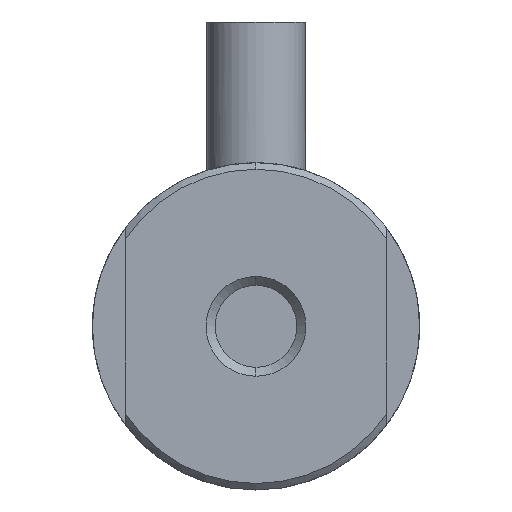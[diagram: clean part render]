
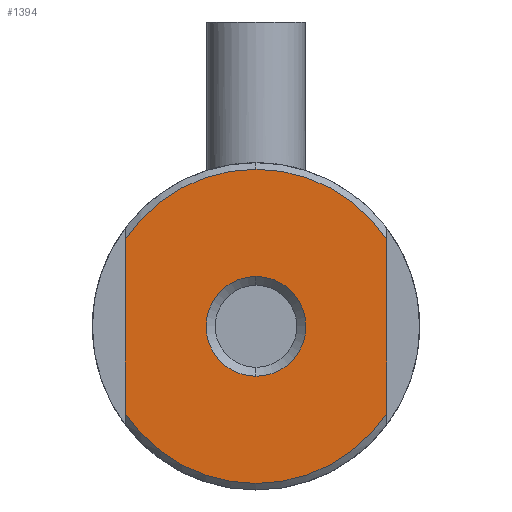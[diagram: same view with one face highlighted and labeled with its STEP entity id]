
A CAD part, front view. The second image highlights one B-rep face of the part: STEP entity #1394.
In plain terms, the highlighted planar face has unit normal (0, -1, 0).
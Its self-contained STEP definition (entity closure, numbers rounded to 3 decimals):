
#1 = EDGE_CURVE ( 'NONE', #1760, #1574, #1885, .T. ) ;
#10 = CARTESIAN_POINT ( 'NONE',  ( 15.221, -12.067, 22.247 ) ) ;
#122 = DIRECTION ( 'NONE',  ( 0., -1., 0. ) ) ;
#123 = CARTESIAN_POINT ( 'NONE',  ( 15.221, -12.067, 27.9 ) ) ;
#133 = DIRECTION ( 'NONE',  ( 0., 0., 1. ) ) ;
#157 = AXIS2_PLACEMENT_3D ( 'NONE', #786, #1821, #1129 ) ;
#215 = ORIENTED_EDGE ( 'NONE', *, *, #950, .F. ) ;
#314 = VERTEX_POINT ( 'NONE', #579 ) ;
#319 = AXIS2_PLACEMENT_3D ( 'NONE', #2030, #122, #133 ) ;
#506 = CARTESIAN_POINT ( 'NONE',  ( 11.221, -12.067, 23.375 ) ) ;
#579 = CARTESIAN_POINT ( 'NONE',  ( 11.221, -12.067, 29.7 ) ) ;
#597 = CIRCLE ( 'NONE', #1053, 1.525 ) ;
#608 = DIRECTION ( 'NONE',  ( 0., 0., 1. ) ) ;
#612 = DIRECTION ( 'NONE',  ( 0., 0., 1. ) ) ;
#617 = CARTESIAN_POINT ( 'NONE',  ( 11.221, -12.067, 24.9 ) ) ;
#639 = EDGE_CURVE ( 'NONE', #1850, #1306, #1549, .T. ) ;
#691 = DIRECTION ( 'NONE',  ( 0., -1., 0. ) ) ;
#709 = AXIS2_PLACEMENT_3D ( 'NONE', #1374, #1535, #836 ) ;
#741 = VECTOR ( 'NONE', #1128, 1000. ) ;
#760 = CARTESIAN_POINT ( 'NONE',  ( 11.221, -12.067, 24.9 ) ) ;
#766 = ORIENTED_EDGE ( 'NONE', *, *, #1, .T. ) ;
#786 = CARTESIAN_POINT ( 'NONE',  ( 11.221, -12.067, 24.9 ) ) ;
#788 = DIRECTION ( 'NONE',  ( 0., 0., -1. ) ) ;
#789 = AXIS2_PLACEMENT_3D ( 'NONE', #760, #2177, #612 ) ;
#836 = DIRECTION ( 'NONE',  ( 0., 0., -1. ) ) ;
#867 = VERTEX_POINT ( 'NONE', #943 ) ;
#876 = DIRECTION ( 'NONE',  ( 0., 0., 1. ) ) ;
#927 = ORIENTED_EDGE ( 'NONE', *, *, #2170, .F. ) ;
#943 = CARTESIAN_POINT ( 'NONE',  ( 15.221, -12.067, 27.553 ) ) ;
#950 = EDGE_CURVE ( 'NONE', #1760, #1429, #1427, .T. ) ;
#973 = EDGE_LOOP ( 'NONE', ( #927, #1843, #2192, #215, #766 ) ) ;
#990 = AXIS2_PLACEMENT_3D ( 'NONE', #2086, #691, #876 ) ;
#1053 = AXIS2_PLACEMENT_3D ( 'NONE', #617, #1828, #788 ) ;
#1103 = EDGE_CURVE ( 'NONE', #1306, #1850, #597, .T. ) ;
#1128 = DIRECTION ( 'NONE',  ( 0., 0., -1. ) ) ;
#1129 = DIRECTION ( 'NONE',  ( 0., 0., 1. ) ) ;
#1251 = EDGE_CURVE ( 'NONE', #314, #1429, #2070, .T. ) ;
#1306 = VERTEX_POINT ( 'NONE', #1417 ) ;
#1317 = FACE_OUTER_BOUND ( 'NONE', #973, .T. ) ;
#1374 = CARTESIAN_POINT ( 'NONE',  ( 11.221, -12.067, 24.9 ) ) ;
#1392 = LINE ( 'NONE', #123, #741 ) ;
#1394 = ADVANCED_FACE ( 'NONE', ( #1809, #1317 ), #2171, .F. ) ;
#1417 = CARTESIAN_POINT ( 'NONE',  ( 11.221, -12.067, 26.425 ) ) ;
#1427 = LINE ( 'NONE', #1614, #1628 ) ;
#1429 = VERTEX_POINT ( 'NONE', #1519 ) ;
#1519 = CARTESIAN_POINT ( 'NONE',  ( 7.221, -12.067, 27.553 ) ) ;
#1535 = DIRECTION ( 'NONE',  ( 0., -1., 0. ) ) ;
#1549 = CIRCLE ( 'NONE', #709, 1.525 ) ;
#1574 = VERTEX_POINT ( 'NONE', #10 ) ;
#1614 = CARTESIAN_POINT ( 'NONE',  ( 7.221, -12.067, 27.9 ) ) ;
#1628 = VECTOR ( 'NONE', #608, 1000. ) ;
#1753 = EDGE_CURVE ( 'NONE', #867, #314, #1871, .T. ) ;
#1760 = VERTEX_POINT ( 'NONE', #2190 ) ;
#1809 = FACE_BOUND ( 'NONE', #1931, .T. ) ;
#1821 = DIRECTION ( 'NONE',  ( 0., -1., 0. ) ) ;
#1828 = DIRECTION ( 'NONE',  ( 0., -1., 0. ) ) ;
#1843 = ORIENTED_EDGE ( 'NONE', *, *, #1753, .T. ) ;
#1850 = VERTEX_POINT ( 'NONE', #506 ) ;
#1871 = CIRCLE ( 'NONE', #157, 4.8 ) ;
#1885 = CIRCLE ( 'NONE', #319, 4.8 ) ;
#1931 = EDGE_LOOP ( 'NONE', ( #1996, #2231 ) ) ;
#1996 = ORIENTED_EDGE ( 'NONE', *, *, #639, .F. ) ;
#2030 = CARTESIAN_POINT ( 'NONE',  ( 11.221, -12.067, 24.9 ) ) ;
#2070 = CIRCLE ( 'NONE', #990, 4.8 ) ;
#2086 = CARTESIAN_POINT ( 'NONE',  ( 11.221, -12.067, 24.9 ) ) ;
#2170 = EDGE_CURVE ( 'NONE', #867, #1574, #1392, .T. ) ;
#2171 = PLANE ( 'NONE',  #789 ) ;
#2177 = DIRECTION ( 'NONE',  ( 0., 1., 0. ) ) ;
#2190 = CARTESIAN_POINT ( 'NONE',  ( 7.221, -12.067, 22.247 ) ) ;
#2192 = ORIENTED_EDGE ( 'NONE', *, *, #1251, .T. ) ;
#2231 = ORIENTED_EDGE ( 'NONE', *, *, #1103, .F. ) ;
